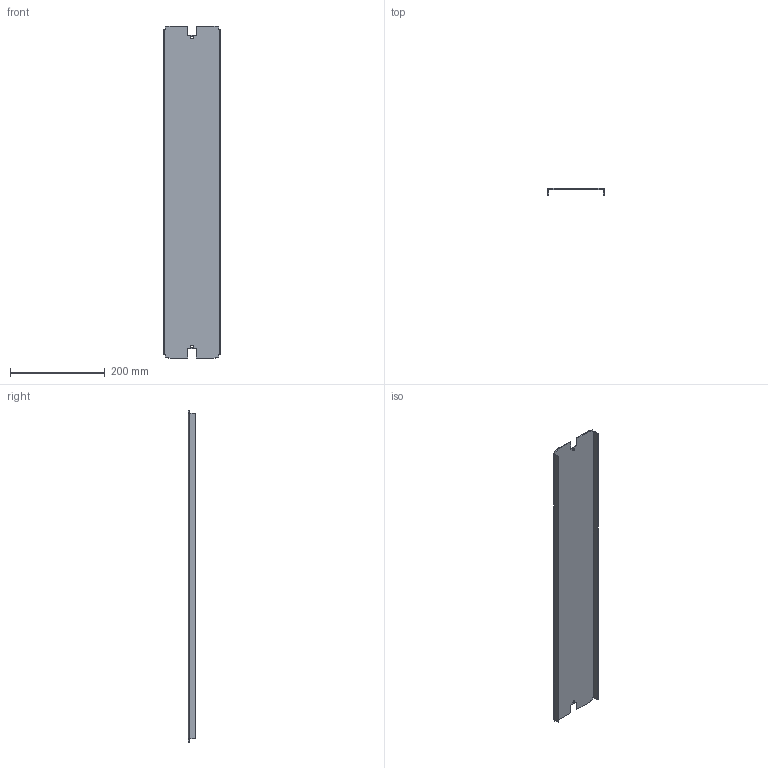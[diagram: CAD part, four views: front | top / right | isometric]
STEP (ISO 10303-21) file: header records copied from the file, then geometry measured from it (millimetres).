
FILE_DESCRIPTION(('CAx-IF Rec.Pracs.---Model Styling and Organization---1.2---2011-12-15','CAx-IF Rec.Pracs.---Geometric and Assembly Validation Properties---4.1---2014-06-16','CAx-IF Rec.Pracs.---PMI Polyline Presentation---2.0---2013-05-24'),'2;1');
FILE_NAME('R5CPL815.stp','2021-05-06T03:45:47+03:00',(''),(''),'STEP Interface 4.4 by CT CoreTechnologie','3D_Evolution4.4 by CT CoreTechnologie','');
FILE_SCHEMA(('AUTOMOTIVE_DESIGN { 1 0 10303 214 1 1 1 1 }'));
Length unit declared in the file: millimetre
Products named in the file (2): R5CPL815; RB.0549.00.00.0_-06
Assembly tree (1 placements, depth 2):
  R5CPL815
    RB.0549.00.00.0_-06
Bounding box: 119 x 15 x 699 mm (x, y, z)
Surface area: 201933 mm2 (no closed solid volume)
Topology: 0 solids, 1 shells, 45 faces, 123 edges, 80 vertices
Faces by surface type: plane 37, cylinder 8
Entity records: 1486 total; most frequent: CARTESIAN_POINT 250, ORIENTED_EDGE 246, DIRECTION 233, EDGE_CURVE 123, VECTOR 107, LINE 107, VERTEX_POINT 80, AXIS2_PLACEMENT_3D 63
